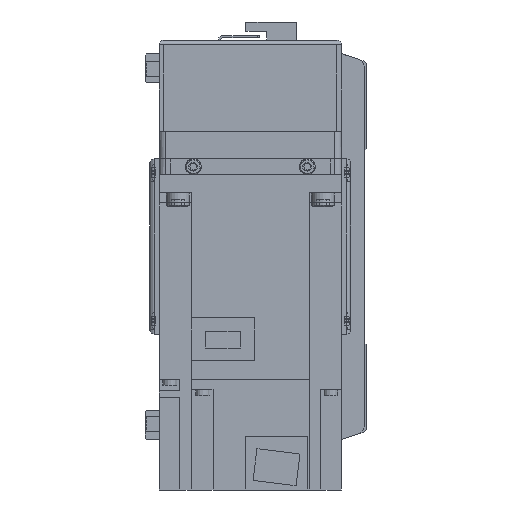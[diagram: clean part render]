
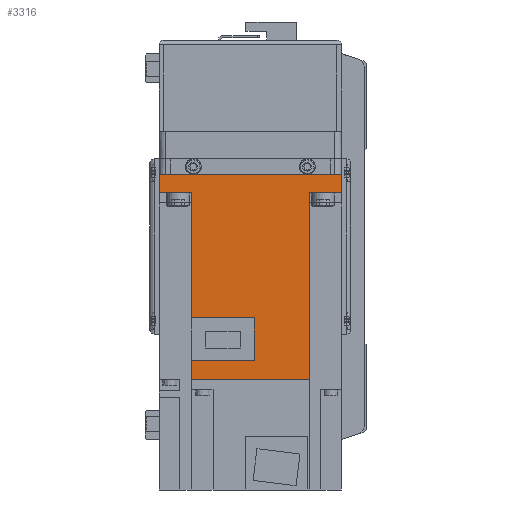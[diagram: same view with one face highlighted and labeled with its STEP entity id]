
A CAD part, left-side view. The second image highlights one B-rep face of the part: STEP entity #3316.
In plain terms, the highlighted planar face has unit normal (-1, 0, 0) as drawn and (1, 0, 0) by its records, which use the part's own axes.
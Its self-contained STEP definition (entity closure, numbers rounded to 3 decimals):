
#3316 = ADVANCED_FACE( '', ( #7061 ), #7062, .F. );
#7061 = FACE_OUTER_BOUND( '', #10989, .T. );
#7062 = PLANE( '', #10990 );
#10989 = EDGE_LOOP( '', ( #20203, #20204, #20205, #20206, #20207, #20208, #20209, #20210, #20211, #20212, #20213, #20214 ) );
#10990 = AXIS2_PLACEMENT_3D( '', #20215, #20216, #20217 );
#20203 = ORIENTED_EDGE( '', *, *, #24574, .F. );
#20204 = ORIENTED_EDGE( '', *, *, #23974, .F. );
#20205 = ORIENTED_EDGE( '', *, *, #23883, .F. );
#20206 = ORIENTED_EDGE( '', *, *, #22336, .T. );
#20207 = ORIENTED_EDGE( '', *, *, #23393, .F. );
#20208 = ORIENTED_EDGE( '', *, *, #21835, .T. );
#20209 = ORIENTED_EDGE( '', *, *, #22473, .T. );
#20210 = ORIENTED_EDGE( '', *, *, #24021, .F. );
#20211 = ORIENTED_EDGE( '', *, *, #24578, .F. );
#20212 = ORIENTED_EDGE( '', *, *, #23975, .F. );
#20213 = ORIENTED_EDGE( '', *, *, #21820, .F. );
#20214 = ORIENTED_EDGE( '', *, *, #22317, .F. );
#20215 = CARTESIAN_POINT( '', ( 40., 89.8, 40. ) );
#20216 = DIRECTION( '', ( -1., 0., 0. ) );
#20217 = DIRECTION( '', ( 0., 0., 1. ) );
#21820 = EDGE_CURVE( '', #25789, #25790, #25791, .T. );
#21835 = EDGE_CURVE( '', #25818, #25816, #25819, .T. );
#22317 = EDGE_CURVE( '', #26669, #25789, #26670, .T. );
#22336 = EDGE_CURVE( '', #26702, #26700, #26703, .T. );
#22473 = EDGE_CURVE( '', #25816, #26942, #26944, .T. );
#23393 = EDGE_CURVE( '', #25818, #26700, #28465, .T. );
#23883 = EDGE_CURVE( '', #26702, #29229, #29231, .T. );
#23974 = EDGE_CURVE( '', #29229, #27569, #29373, .T. );
#23975 = EDGE_CURVE( '', #25790, #29374, #29375, .T. );
#24021 = EDGE_CURVE( '', #29442, #26942, #29444, .T. );
#24574 = EDGE_CURVE( '', #27569, #26669, #30235, .T. );
#24578 = EDGE_CURVE( '', #29374, #29442, #30240, .T. );
#25789 = VERTEX_POINT( '', #31749 );
#25790 = VERTEX_POINT( '', #31750 );
#25791 = LINE( '', #31751, #31752 );
#25816 = VERTEX_POINT( '', #31786 );
#25818 = VERTEX_POINT( '', #31789 );
#25819 = LINE( '', #31790, #31791 );
#26669 = VERTEX_POINT( '', #33041 );
#26670 = LINE( '', #33042, #33043 );
#26700 = VERTEX_POINT( '', #33080 );
#26702 = VERTEX_POINT( '', #33083 );
#26703 = LINE( '', #33084, #33085 );
#26942 = VERTEX_POINT( '', #33422 );
#26944 = LINE( '', #33425, #33426 );
#27569 = VERTEX_POINT( '', #34379 );
#28465 = LINE( '', #35875, #35876 );
#29229 = VERTEX_POINT( '', #37129 );
#29231 = LINE( '', #37132, #37133 );
#29373 = LINE( '', #37356, #37357 );
#29374 = VERTEX_POINT( '', #37358 );
#29375 = LINE( '', #37359, #37360 );
#29442 = VERTEX_POINT( '', #37468 );
#29444 = LINE( '', #37471, #37472 );
#30235 = LINE( '', #38669, #38670 );
#30240 = LINE( '', #38677, #38678 );
#31749 = CARTESIAN_POINT( '', ( 40., 62.8, 1.8 ) );
#31750 = CARTESIAN_POINT( '', ( 40., 62.8, -25.95 ) );
#31751 = CARTESIAN_POINT( '', ( 40., 62.8, 1.8 ) );
#31752 = VECTOR( '', #41107, 1000. );
#31786 = CARTESIAN_POINT( '', ( 40., 0., 40. ) );
#31789 = CARTESIAN_POINT( '', ( 40., 8., 40. ) );
#31790 = CARTESIAN_POINT( '', ( 40., 89.8, 40. ) );
#31791 = VECTOR( '', #41124, 1000. );
#33041 = CARTESIAN_POINT( '', ( 40., 81.4, 1.8 ) );
#33042 = CARTESIAN_POINT( '', ( 40., 81.4, 1.8 ) );
#33043 = VECTOR( '', #41796, 1000. );
#33080 = CARTESIAN_POINT( '', ( 40., 8., 25.95 ) );
#33083 = CARTESIAN_POINT( '', ( 40., 89.8, 25.95 ) );
#33084 = CARTESIAN_POINT( '', ( 40., 158., 25.95 ) );
#33085 = VECTOR( '', #41823, 1000. );
#33422 = CARTESIAN_POINT( '', ( 40., 0., -40. ) );
#33425 = CARTESIAN_POINT( '', ( 40., 0., 40. ) );
#33426 = VECTOR( '', #42022, 1000. );
#34379 = CARTESIAN_POINT( '', ( 40., 81.4, -25.95 ) );
#35875 = CARTESIAN_POINT( '', ( 40., 8., 40. ) );
#35876 = VECTOR( '', #43124, 1000. );
#37129 = CARTESIAN_POINT( '', ( 40., 89.8, -25.95 ) );
#37132 = CARTESIAN_POINT( '', ( 40., 89.8, 40. ) );
#37133 = VECTOR( '', #43755, 1000. );
#37356 = CARTESIAN_POINT( '', ( 40., 158., -25.95 ) );
#37357 = VECTOR( '', #43867, 1000. );
#37358 = CARTESIAN_POINT( '', ( 40., 8., -25.95 ) );
#37359 = CARTESIAN_POINT( '', ( 40., 158., -25.95 ) );
#37360 = VECTOR( '', #43868, 1000. );
#37468 = CARTESIAN_POINT( '', ( 40., 8., -40. ) );
#37471 = CARTESIAN_POINT( '', ( 40., 89.8, -40. ) );
#37472 = VECTOR( '', #43922, 1000. );
#38669 = CARTESIAN_POINT( '', ( 40., 81.4, -26. ) );
#38670 = VECTOR( '', #44579, 1000. );
#38677 = CARTESIAN_POINT( '', ( 40., 8., 40. ) );
#38678 = VECTOR( '', #44582, 1000. );
#41107 = DIRECTION( '', ( 0., 0., -1. ) );
#41124 = DIRECTION( '', ( 0., -1., 0. ) );
#41796 = DIRECTION( '', ( 0., -1., 0. ) );
#41823 = DIRECTION( '', ( 0., -1., 0. ) );
#42022 = DIRECTION( '', ( 0., 0., -1. ) );
#43124 = DIRECTION( '', ( 0., 0., -1. ) );
#43755 = DIRECTION( '', ( 0., 0., -1. ) );
#43867 = DIRECTION( '', ( 0., -1., 0. ) );
#43868 = DIRECTION( '', ( 0., -1., 0. ) );
#43922 = DIRECTION( '', ( 0., -1., 0. ) );
#44579 = DIRECTION( '', ( 0., 0., 1. ) );
#44582 = DIRECTION( '', ( 0., 0., -1. ) );
